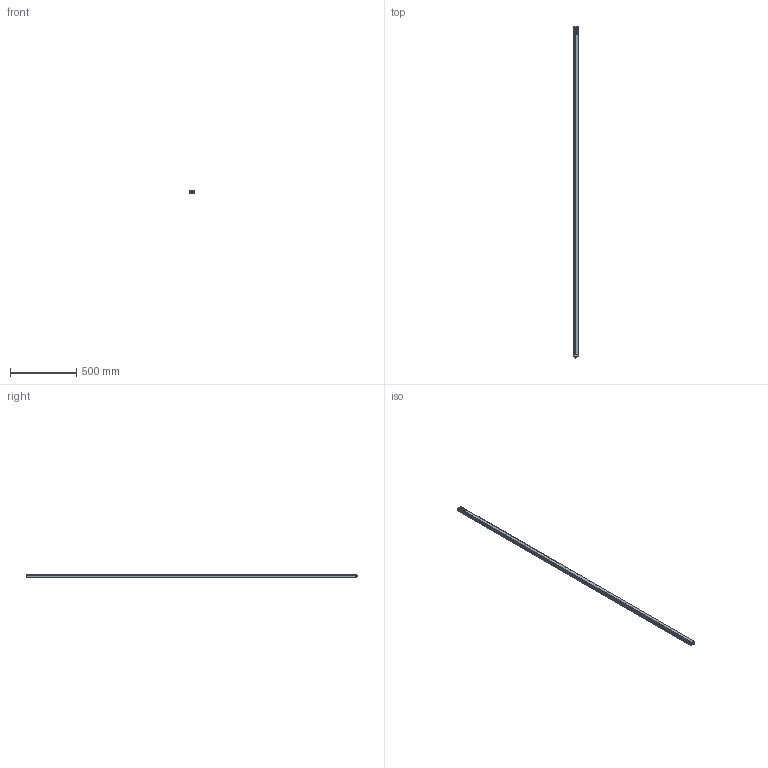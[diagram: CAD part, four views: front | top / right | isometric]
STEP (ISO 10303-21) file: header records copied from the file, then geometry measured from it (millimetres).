
FILE_DESCRIPTION(/* description */ (''),/* implementation_level */ '2;1');
FILE_NAME(/* name */ 'C:\Users\andre\SynologyDrive\Optoscan\Libreria Componenti\00 - Barriere\Barriera sorgente\Argo_2480_TX.stp',/* time_stamp */ '2021-04-22T10:33:00+02:00',/* author */ ('andre'),/* organization */ (''),/* preprocessor_version */ 'ST-DEVELOPER v18',/* originating_system */ 'Autodesk Inventor 2020',/* authorisation */ '');
FILE_SCHEMA (('AP203_CONFIGURATION_CONTROLLED_3D_DESIGN_OF_MECHANICAL_PARTS_AND_ASSEMBLIES_MIM_LF { 1 0 10303 203 3 1 4 }','AUTOMOTIVE_DESIGN { 1 0 10303 214 3 1 1 }'));
Length unit declared in the file: millimetre
Products named in the file (1): Argo_2480_TX
Bounding box: 40.5 x 2513.3 x 20.75 mm (x, y, z)
Volume: 494112.7 mm3; surface area: 652197 mm2
Topology: 1 solids, 1 shells, 696 faces, 1911 edges, 1225 vertices
Faces by surface type: plane 321, cylinder 195, bspline 94, torus 72, cone 8, sphere 6
Full cylindrical faces by diameter (mm): 1 x4, 2.459 x4, 2.5 x4, 3 x4, 3.5 x4, 5.5 x4, 8 x1, 10.5 x2, 11.75 x9, 15.7 x1, 17.5 x1
Entity records: 30770 total; most frequent: CARTESIAN_POINT 12670, ORIENTED_EDGE 3806, DIRECTION 3415, EDGE_CURVE 1903, VERTEX_POINT 1225, AXIS2_PLACEMENT_3D 1193, LINE 1029, VECTOR 1029
